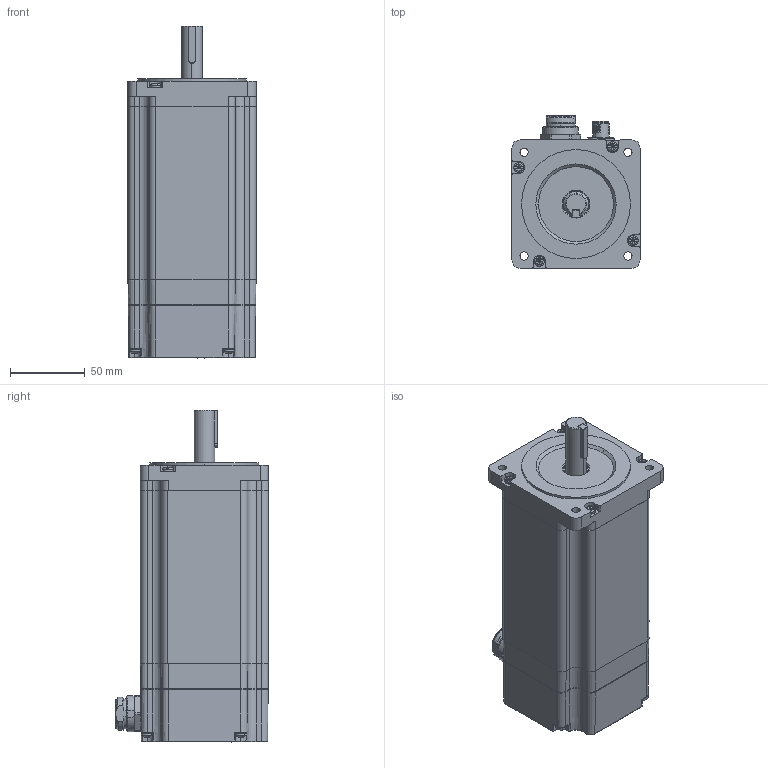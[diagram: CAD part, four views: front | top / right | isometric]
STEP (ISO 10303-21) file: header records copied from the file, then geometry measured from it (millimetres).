
FILE_DESCRIPTION (( 'STEP AP214' ), '1' );
FILE_NAME ('M86SH156-TO0512L05C.STEP', '2025-12-18T14:10:32', ( '' ), ( '' ), 'SwSTEP 2.0', 'SolidWorks 2019', '' );
FILE_SCHEMA (( 'AUTOMOTIVE_DESIGN' ));
Length unit declared in the file: millimetre
Products named in the file (1): M86SH156-TO0512L05C
Bounding box: 85.9 x 102.59 x 222.55 mm (x, y, z)
Volume: 762771.8 mm3; surface area: 206643 mm2
Topology: 28 solids, 28 shells, 1945 faces, 5038 edges, 3230 vertices
Faces by surface type: plane 935, cylinder 466, bspline 261, cone 173, torus 94, sphere 16
Entity records: 93571 total; most frequent: CARTESIAN_POINT 25222, ORIENTED_EDGE 9998, DIRECTION 9205, EDGE_CURVE 4999, VERTEX_POINT 3230, AXIS2_PLACEMENT_3D 3228, LINE 2749, VECTOR 2749
